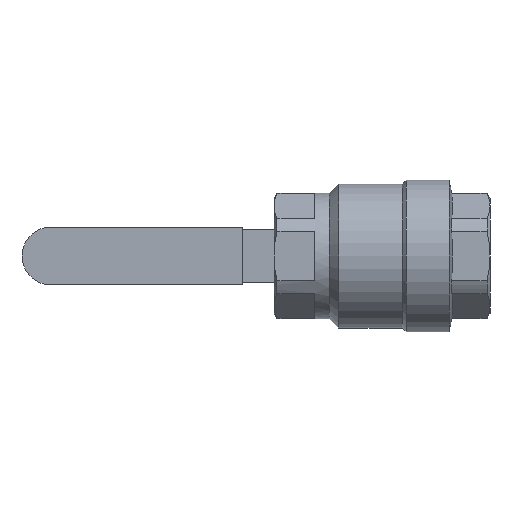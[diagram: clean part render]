
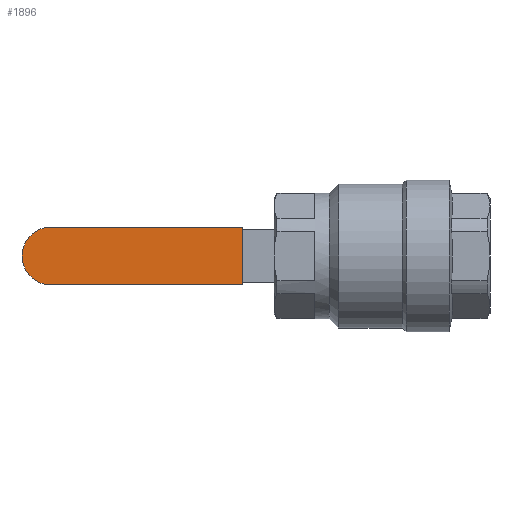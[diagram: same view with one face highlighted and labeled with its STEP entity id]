
A CAD part, front view. The second image highlights one B-rep face of the part: STEP entity #1896.
In plain terms, the highlighted planar face has unit normal (0, -1, 0).
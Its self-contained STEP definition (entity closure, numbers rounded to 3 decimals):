
#137 = DIRECTION ( 'NONE',  ( 0., 0., -1. ) ) ;
#161 = CARTESIAN_POINT ( 'NONE',  ( -150., 71.7, 12. ) ) ;
#225 = VECTOR ( 'NONE', #2810, 1000. ) ;
#406 = CIRCLE ( 'NONE', #2511, 12. ) ;
#460 = EDGE_LOOP ( 'NONE', ( #2827, #2555, #3643, #2048 ) ) ;
#804 = EDGE_CURVE ( 'NONE', #2276, #1219, #3539, .T. ) ;
#873 = EDGE_CURVE ( 'NONE', #2916, #2276, #1037, .T. ) ;
#902 = CARTESIAN_POINT ( 'NONE',  ( -58., 71.7, -12. ) ) ;
#968 = DIRECTION ( 'NONE',  ( 0., 0., 1. ) ) ;
#1037 = LINE ( 'NONE', #161, #225 ) ;
#1144 = DIRECTION ( 'NONE',  ( 1., 0., 0. ) ) ;
#1219 = VERTEX_POINT ( 'NONE', #902 ) ;
#1416 = CARTESIAN_POINT ( 'NONE',  ( -138., 71.7, 12. ) ) ;
#1438 = CARTESIAN_POINT ( 'NONE',  ( -150., 71.7, -12. ) ) ;
#1474 = VERTEX_POINT ( 'NONE', #2112 ) ;
#1481 = AXIS2_PLACEMENT_3D ( 'NONE', #3000, #2723, #968 ) ;
#1500 = CARTESIAN_POINT ( 'NONE',  ( -138., 71.7, 0. ) ) ;
#1620 = VECTOR ( 'NONE', #1144, 1000. ) ;
#1664 = EDGE_CURVE ( 'NONE', #1474, #1219, #2397, .T. ) ;
#1806 = DIRECTION ( 'NONE',  ( 0., 0., 1. ) ) ;
#1896 = ADVANCED_FACE ( 'NONE', ( #3311 ), #2423, .F. ) ;
#2048 = ORIENTED_EDGE ( 'NONE', *, *, #804, .F. ) ;
#2112 = CARTESIAN_POINT ( 'NONE',  ( -138., 71.7, -12. ) ) ;
#2276 = VERTEX_POINT ( 'NONE', #3144 ) ;
#2397 = LINE ( 'NONE', #1438, #1620 ) ;
#2423 = PLANE ( 'NONE',  #1481 ) ;
#2511 = AXIS2_PLACEMENT_3D ( 'NONE', #1500, #3547, #1806 ) ;
#2555 = ORIENTED_EDGE ( 'NONE', *, *, #3810, .T. ) ;
#2723 = DIRECTION ( 'NONE',  ( 0., 1., 0. ) ) ;
#2774 = VECTOR ( 'NONE', #137, 1000. ) ;
#2810 = DIRECTION ( 'NONE',  ( 1., 0., 0. ) ) ;
#2827 = ORIENTED_EDGE ( 'NONE', *, *, #873, .F. ) ;
#2916 = VERTEX_POINT ( 'NONE', #1416 ) ;
#3000 = CARTESIAN_POINT ( 'NONE',  ( -150., 71.7, 12. ) ) ;
#3144 = CARTESIAN_POINT ( 'NONE',  ( -58., 71.7, 12. ) ) ;
#3311 = FACE_OUTER_BOUND ( 'NONE', #460, .T. ) ;
#3539 = LINE ( 'NONE', #3652, #2774 ) ;
#3547 = DIRECTION ( 'NONE',  ( 0., -1., 0. ) ) ;
#3643 = ORIENTED_EDGE ( 'NONE', *, *, #1664, .T. ) ;
#3652 = CARTESIAN_POINT ( 'NONE',  ( -58., 71.7, 12. ) ) ;
#3810 = EDGE_CURVE ( 'NONE', #2916, #1474, #406, .T. ) ;
